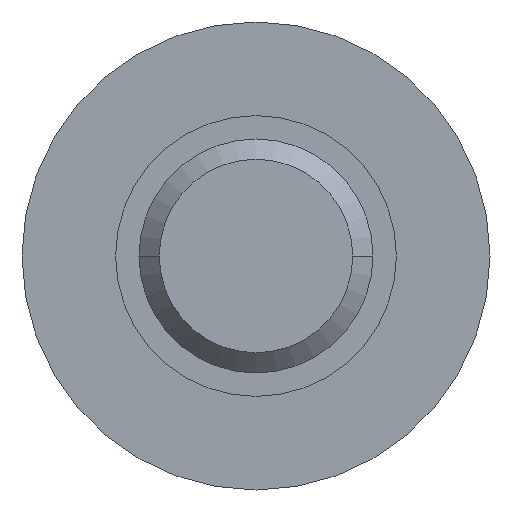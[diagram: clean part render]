
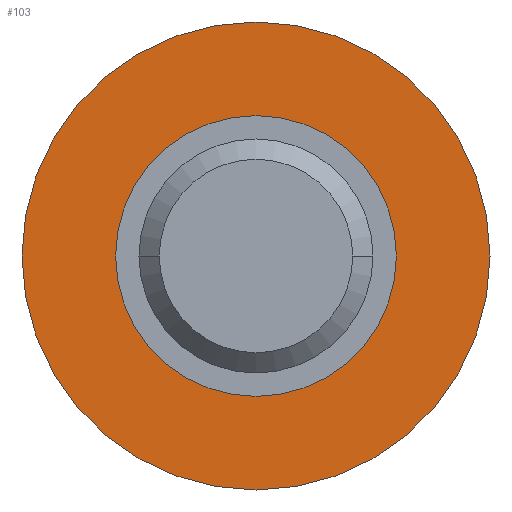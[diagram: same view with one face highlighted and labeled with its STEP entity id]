
A CAD part, front view. The second image highlights one B-rep face of the part: STEP entity #103.
In plain terms, the highlighted planar face has unit normal (0, -1, 0).
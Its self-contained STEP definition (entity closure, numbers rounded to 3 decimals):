
#75=FACE_BOUND('',#182,.F.);
#81=PLANE('',#685);
#103=ADVANCED_FACE('',(#75,#141),#81,.T.);
#141=FACE_OUTER_BOUND('',#183,.F.);
#182=EDGE_LOOP('',(#276,#277));
#183=EDGE_LOOP('',(#278,#279));
#276=ORIENTED_EDGE('',*,*,#459,.T.);
#277=ORIENTED_EDGE('',*,*,#458,.T.);
#278=ORIENTED_EDGE('',*,*,#481,.F.);
#279=ORIENTED_EDGE('',*,*,#478,.F.);
#412=CIRCLE('',#653,3.);
#413=CIRCLE('',#654,3.);
#428=CIRCLE('',#669,5.);
#429=CIRCLE('',#670,5.);
#458=EDGE_CURVE('',#614,#613,#412,.T.);
#459=EDGE_CURVE('',#613,#614,#413,.T.);
#478=EDGE_CURVE('',#602,#601,#428,.T.);
#481=EDGE_CURVE('',#601,#602,#429,.T.);
#601=VERTEX_POINT('',#915);
#602=VERTEX_POINT('',#916);
#613=VERTEX_POINT('',#927);
#614=VERTEX_POINT('',#928);
#653=AXIS2_PLACEMENT_3D('',#969,#749,#750);
#654=AXIS2_PLACEMENT_3D('',#970,#751,#752);
#669=AXIS2_PLACEMENT_3D('',#989,#785,#786);
#670=AXIS2_PLACEMENT_3D('',#992,#789,#790);
#685=AXIS2_PLACEMENT_3D('',#1113,#829,#830);
#749=DIRECTION('',(0.,-1.,0.));
#750=DIRECTION('',(1.,0.,0.));
#751=DIRECTION('',(0.,-1.,0.));
#752=DIRECTION('',(-1.,0.,0.));
#785=DIRECTION('',(0.,-1.,0.));
#786=DIRECTION('',(-1.,0.,0.));
#789=DIRECTION('',(0.,-1.,0.));
#790=DIRECTION('',(1.,0.,0.));
#829=DIRECTION('',(0.,-1.,0.));
#830=DIRECTION('',(0.,0.,-1.));
#915=CARTESIAN_POINT('',(15.,0.,0.));
#916=CARTESIAN_POINT('',(5.,0.,0.));
#927=CARTESIAN_POINT('',(7.,0.,0.));
#928=CARTESIAN_POINT('',(13.,0.,0.));
#969=CARTESIAN_POINT('',(10.,0.,0.));
#970=CARTESIAN_POINT('',(10.,0.,0.));
#989=CARTESIAN_POINT('',(10.,0.,0.));
#992=CARTESIAN_POINT('',(10.,0.,0.));
#1113=CARTESIAN_POINT('',(4.9,0.,5.1));
